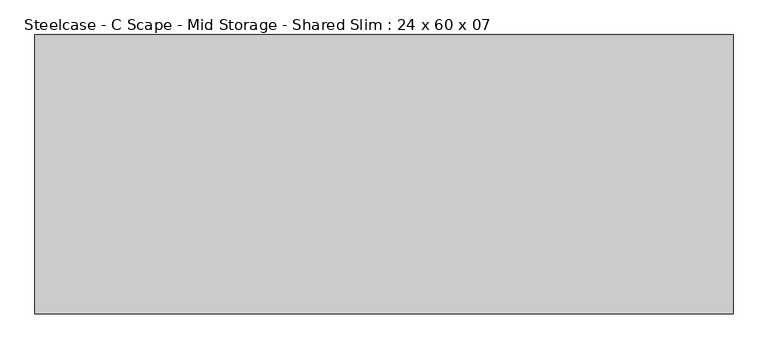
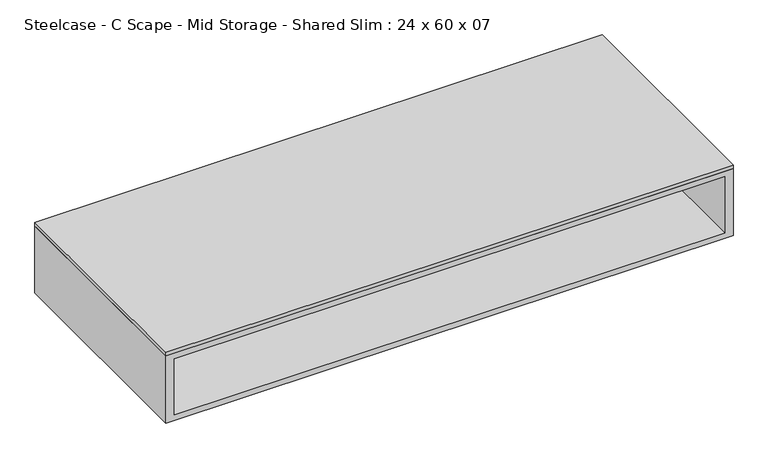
"""IFC4 building model written with IfcOpenShell, lengths in millimetres: furniture geometry, Steelcase - C Scape - Mid Storage - Shared Slim : 24 x 60 x 07."""

import ifcopenshell
import ifcopenshell.guid

model = None  # the IFC model being written
_history = None  # IfcOwnerHistory: only IFC2X3 demands one
_inside = {}  # id of a spatial element -> (the spatial element, [elements in it])
_under = {}  # id of a project, library or spatial element -> (it, [spatial elements below it])
_declared = {}  # id of a project -> (the project, [libraries it declares])
_typed = {}  # id of a type object -> (the type object, [elements of that type])
_made_of = {}  # id of a material, layer set ... -> (it, [elements and type objects made of it])


def new_model(schema):
    """Start an empty IFC model of exactly this schema.

    Asked for "IFC4X3", IfcOpenShell would pick the latest addendum, in which some entities
    have other attributes; the version numbers below select the first issue.
    IFC2X3 requires an IfcOwnerHistory on every rooted entity: one is made here for all.
    """
    global model, _history
    if schema == "IFC4X3":
        model = ifcopenshell.file(schema_version=(4, 3, 0, 0))
    else:
        model = ifcopenshell.file(schema=schema)
    _inside.clear()
    _under.clear()
    _declared.clear()
    _typed.clear()
    _made_of.clear()
    _history = None
    if model.schema == "IFC2X3":
        org = make("IfcOrganization", Name="unknown")
        user = make(
            "IfcPersonAndOrganization",
            ThePerson=make("IfcPerson", FamilyName="unknown"),
            TheOrganization=org,
        )
        app = make(
            "IfcApplication",
            ApplicationDeveloper=org,
            Version="unknown",
            ApplicationFullName="unknown",
            ApplicationIdentifier="unknown",
        )
        _history = make(
            "IfcOwnerHistory",
            OwningUser=user,
            OwningApplication=app,
            ChangeAction="ADDED",
            CreationDate=0,
        )
    return model


def make(cls, **values):
    """One entity of the class cls with the attributes given. An attribute that is None is left unset."""
    return model.create_entity(
        cls, **{name: value for name, value in values.items() if value is not None}
    )


def rooted(cls, **values):
    """An entity with a GlobalId (a new one), such as an element, a storey or a relation."""
    return make(cls, GlobalId=ifcopenshell.guid.new(), OwnerHistory=_history, **values)


def si_unit(unit_type, name, prefix=None):
    """IfcSIUnit, for example si_unit("LENGTHUNIT", "METRE", prefix="MILLI")."""
    return make("IfcSIUnit", UnitType=unit_type, Prefix=prefix, Name=name)


def assignment(units):
    """IfcUnitAssignment: the units of a project."""
    return None if units is None else make("IfcUnitAssignment", Units=units)


def point(xyz):
    """IfcCartesianPoint."""
    return None if xyz is None else make("IfcCartesianPoint", Coordinates=xyz)


def direction(xyz):
    """IfcDirection."""
    return None if xyz is None else make("IfcDirection", DirectionRatios=xyz)


def frame(location, z_axis=None, x_axis=None):
    """IfcAxis2Placement3D, a coordinate frame: its origin and axes. An axis left out is left unset."""
    return make(
        "IfcAxis2Placement3D",
        Location=point(location),
        Axis=direction(z_axis),
        RefDirection=direction(x_axis),
    )


def origin():
    """The frame at (0, 0, 0) with its axes left unset."""
    return frame((0.0, 0.0, 0.0))


def place(relative_to, where):
    """IfcLocalPlacement: puts the frame where relative to a parent placement (None: the world)."""
    return make(
        "IfcLocalPlacement", PlacementRelTo=relative_to, RelativePlacement=where
    )


def context(
    kind, dimensions, precision=None, world=None, true_north=None, identifier=None
):
    """IfcGeometricRepresentationContext, for example the 3D "Model" context."""
    return make(
        "IfcGeometricRepresentationContext",
        ContextIdentifier=identifier,
        ContextType=kind,
        CoordinateSpaceDimension=dimensions,
        Precision=precision,
        WorldCoordinateSystem=world,
        TrueNorth=true_north,
    )


def project(units=None, contexts=None):
    """IfcProject with its units and contexts."""
    return rooted(
        "IfcProject",
        Name="project",
        RepresentationContexts=contexts,
        UnitsInContext=assignment(units),
    )


def spatial(cls, under=None, at=None, **own):
    """A site, building, storey or space (cls), placed at a placement, below another one or the project."""
    s = rooted(cls, ObjectPlacement=at, **own)
    if under is not None:
        _under.setdefault(under.id(), (under, []))[1].append(s)
    return s


def polyline(points):
    """IfcPolyline through the points."""
    return make("IfcPolyline", Points=[point(p) for p in points])


def outline(outer, holes=None, kind="AREA"):
    """IfcArbitraryClosedProfileDef: a profile drawn as a closed curve; with holes, ...WithVoids."""
    if holes is None:
        return make("IfcArbitraryClosedProfileDef", ProfileType=kind, OuterCurve=outer)
    return make(
        "IfcArbitraryProfileDefWithVoids",
        ProfileType=kind,
        OuterCurve=outer,
        InnerCurves=holes,
    )


def extrude(swept, where, along, depth):
    """IfcExtrudedAreaSolid: the profile swept, set in the frame where, extruded along a direction by depth."""
    return make(
        "IfcExtrudedAreaSolid",
        SweptArea=swept,
        Position=where,
        ExtrudedDirection=direction(along),
        Depth=depth,
    )


def shape(context_of_items, identifier, shape_type, items):
    """IfcShapeRepresentation: the items that make up one representation, for example the "Body"."""
    return make(
        "IfcShapeRepresentation",
        ContextOfItems=context_of_items,
        RepresentationIdentifier=identifier,
        RepresentationType=shape_type,
        Items=items,
    )


def source(mapping_origin, context_of_items, identifier, shape_type, items):
    """IfcRepresentationMap: a shape defined once, which mapped items show again and again."""
    return make(
        "IfcRepresentationMap",
        MappingOrigin=mapping_origin,
        MappedRepresentation=shape(context_of_items, identifier, shape_type, items),
    )


def transform(
    local_origin,
    x_axis=None,
    y_axis=None,
    z_axis=None,
    scale=None,
    scale2=None,
    scale3=None,
    uniform=True,
):
    """IfcCartesianTransformationOperator3D, or its non-uniform kind. x_axis, y_axis, z_axis: its Axis1, 2, 3."""
    if uniform:
        return make(
            "IfcCartesianTransformationOperator3D",
            Axis1=direction(x_axis),
            Axis2=direction(y_axis),
            LocalOrigin=point(local_origin),
            Scale=scale,
            Axis3=direction(z_axis),
        )
    return make(
        "IfcCartesianTransformationOperator3DnonUniform",
        Axis1=direction(x_axis),
        Axis2=direction(y_axis),
        LocalOrigin=point(local_origin),
        Scale=scale,
        Axis3=direction(z_axis),
        Scale2=scale2,
        Scale3=scale3,
    )


def mapped(mapping_source, mapping_target):
    """IfcMappedItem: shows the shape of a source again, moved by a transform."""
    return make(
        "IfcMappedItem", MappingSource=mapping_source, MappingTarget=mapping_target
    )


def made_of(thing, what):
    """Note that an element or type object is made of a material, layer set ...; save() writes the relation."""
    if what is not None:
        _made_of.setdefault(what.id(), (what, []))[1].append(thing)
    return thing


def element(
    cls,
    number,
    at=None,
    inside=None,
    cuts=None,
    type_object=None,
    material=None,
    context=None,
    identifier="Body",
    shape_type=None,
    held_by="IfcProductDefinitionShape",
    body=None,
    shapes=None,
    **own,
):
    """One element of the class cls, such as IfcWall. Its Tag is "e" and its number.

    at: its placement. inside: the storey or other place that contains it. cuts: it is an
    opening in that element (IfcRelVoidsElement). A single representation is given by context,
    identifier, shape_type and body (its items); several are given by shapes. held_by: the class
    of the entity that holds the representations. save() writes the other relations.
    """
    e = rooted(cls, Tag="e%d" % number, ObjectPlacement=at, **own)
    if body is not None:
        shapes = [shape(context, identifier, shape_type, body)]
    if shapes is not None:
        e.Representation = make(held_by, Representations=shapes)
    if inside is not None:
        _inside.setdefault(inside.id(), (inside, []))[1].append(e)
    if cuts is not None:
        rooted(
            "IfcRelVoidsElement", RelatingBuildingElement=cuts, RelatedOpeningElement=e
        )
    if type_object is not None:
        _typed.setdefault(type_object.id(), (type_object, []))[1].append(e)
    return made_of(e, material)


def aggregate(whole, parts):
    """IfcRelAggregates: a whole, such as a stair, and the parts it consists of."""
    return rooted("IfcRelAggregates", RelatingObject=whole, RelatedObjects=parts)


def save(model, path):
    """Write the relations noted so far, then the file.

    IfcRelAggregates (storeys below a building ...), IfcRelContainedInSpatialStructure (elements
    in a storey), IfcRelDefinesByType, IfcRelAssociatesMaterial and IfcRelDeclares: one each for
    every whole, place, type object, material and project.
    """
    for whole, parts in _under.values():
        aggregate(whole, parts)
    for where, things in _inside.values():
        rooted(
            "IfcRelContainedInSpatialStructure",
            RelatedElements=things,
            RelatingStructure=where,
        )
    for kind, things in _typed.values():
        rooted("IfcRelDefinesByType", RelatedObjects=things, RelatingType=kind)
    for what, things in _made_of.values():
        rooted("IfcRelAssociatesMaterial", RelatedObjects=things, RelatingMaterial=what)
    for by, libraries in _declared.values():
        rooted("IfcRelDeclares", RelatingContext=by, RelatedDefinitions=libraries)
    model.write(path)


def steelcase_c_scape_mid_storage_shared_slim_24_x_60_x_07_b9114c65(model_context):
    return source(origin(), model_context, "Body", "SweptSolid", [
        extrude(outline(polyline([(1524.0, 304.8), (1524.0, -304.8), (0.0, -304.8), (0.0, 304.8), (1524.0, 304.8)])), frame((0.0, 0.0, 1028.7), z_axis=(0.0, 0.0, 1.0), x_axis=(1.0, 0.0, 0.0)), (0.0, 0.0, 1.0), 10.16),
        extrude(outline(polyline([(1501.902, 3.1751841), (1501.902, -3.1744283), (21.9711633, -3.1744283), (21.9711633, 3.1751841), (1501.902, 3.1751841)])), frame((0.0, 0.0, 853.4399855), z_axis=(0.0, 0.0, 1.0), x_axis=(1.0, 0.0, 0.0)), (0.0, 0.0, 1.0), 160.0200145),
        extrude(outline(polyline([(1028.7, 1524.0), (1028.7, 0.0), (838.2, 0.0), (838.2, 1524.0), (1028.7, 1524.0)]), holes=[polyline([(1013.46, 1501.902), (853.4399855, 1501.902), (853.4399855, 21.9711633), (1013.46, 21.9711633), (1013.46, 1501.902)])]), frame((0.0, -304.8, 0.0), z_axis=(0.0, 1.0, 0.0), x_axis=(0.0, 0.0, 1.0)), (0.0, 0.0, 1.0), 609.6),
    ])


if __name__ == "__main__":
    model = new_model("IFC4")
    model_context = context("Model", 3, world=origin())
    ifc_project = project(units=[si_unit("LENGTHUNIT", "METRE", prefix="MILLI")], contexts=[model_context])
    site = spatial("IfcSite", under=ifc_project)
    building = spatial("IfcBuilding", under=site)
    placement = place(None, origin())
    steelcase_c_scape_mid_storage_shared_slim_24_x_60_x_07_shape = steelcase_c_scape_mid_storage_shared_slim_24_x_60_x_07_b9114c65(model_context)
    element("IfcFurniture", 1, ObjectType="Steelcase - C Scape - Mid Storage - Shared Slim : 24 x 60 x 07", at=placement, inside=building, context=model_context, shape_type="MappedRepresentation", body=[
        mapped(steelcase_c_scape_mid_storage_shared_slim_24_x_60_x_07_shape, transform((0.0, 0.0, 0.0), x_axis=(1.0, 0.0, 0.0), y_axis=(0.0, 1.0, 0.0), z_axis=(0.0, 0.0, 1.0))),
    ])
    save(model, "model.ifc")
